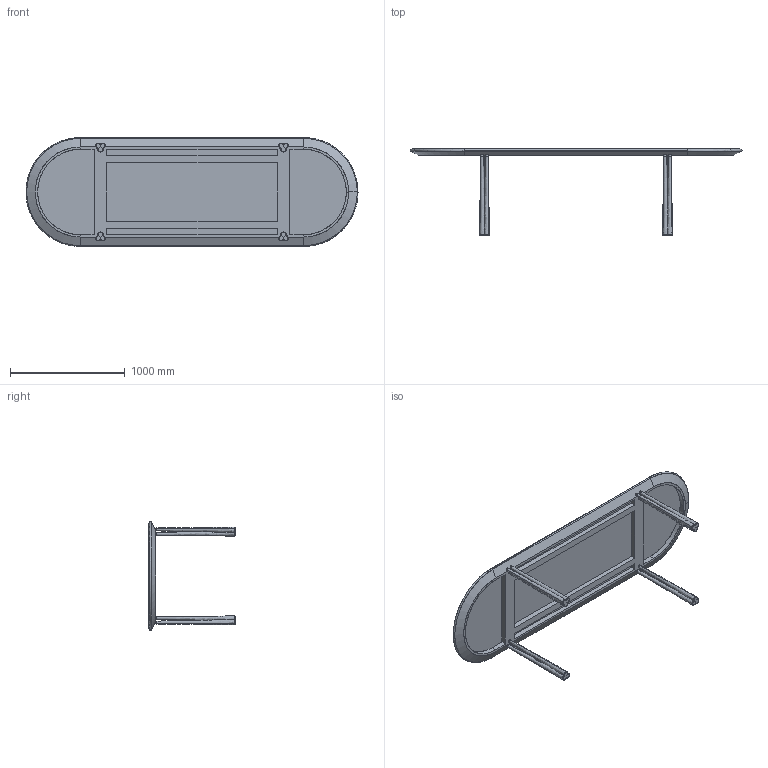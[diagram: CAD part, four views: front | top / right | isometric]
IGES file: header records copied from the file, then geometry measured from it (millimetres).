
Start section: SolidWorks IGES file using analytic representation for surfaces
Global section: file name: E:\Box Sync\Jason Miller\051 Elliot Dining Table\sales related\SW\051L Elliot Dining Table\051L Elliot Dining Table.IGS; native system: SolidWorks 2016; preprocessor: SolidWorks 2016; author: Kumagai; date: 180320.180735; units: millimetre
Bounding box: 2899.74 x 753.5 x 950 mm (x, y, z)
Surface area: 6922962.4 mm2 (no closed solid volume)
Topology: 0 solids, 0 shells, 223 faces, 5252 edges, 5252 vertices
Faces by surface type: bspline 161, revolution 62
